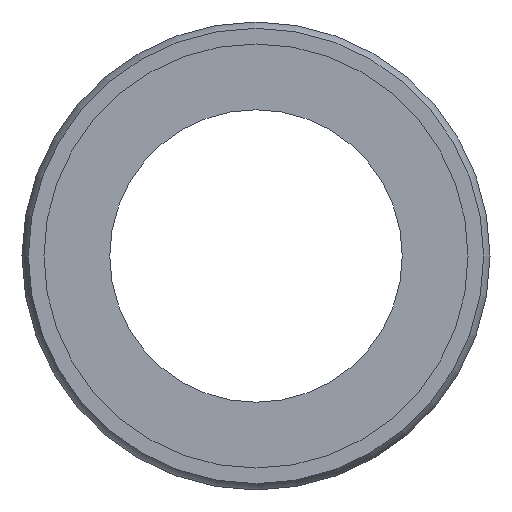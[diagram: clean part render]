
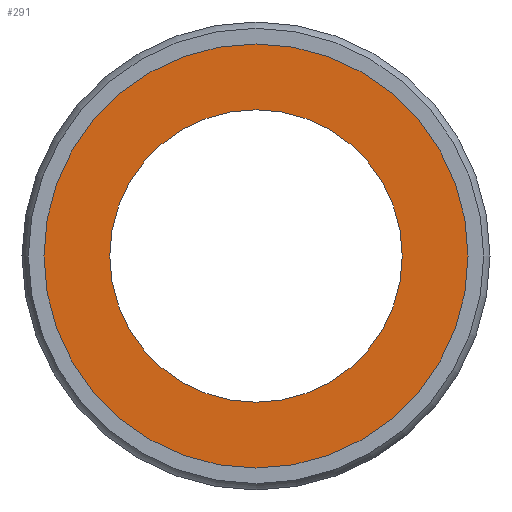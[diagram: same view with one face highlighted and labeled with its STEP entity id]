
A CAD part, left-side view. The second image highlights one B-rep face of the part: STEP entity #291.
In plain terms, the highlighted planar face has unit normal (-1, 0, 0).
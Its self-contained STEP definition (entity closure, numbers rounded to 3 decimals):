
#257=CARTESIAN_POINT('',(0.1,0.0,14.5));
#258=VERTEX_POINT('',#257);
#259=CARTESIAN_POINT('',(0.1,0.0,0.));
#260=DIRECTION('',(-1.0,0.0,0.0));
#261=DIRECTION('',(0.0,0.0,1.0));
#262=AXIS2_PLACEMENT_3D('',#259,#260,#261);
#263=CIRCLE('',#262,14.5);
#264=EDGE_CURVE('',#258,#258,#263,.T.);
#272=CARTESIAN_POINT('',(0.1,0.0,12.25));
#273=DIRECTION('',(-1.0,0.0,0.0));
#274=DIRECTION('',(0.0,0.0,1.0));
#275=AXIS2_PLACEMENT_3D('',#272,#273,#274);
#276=PLANE('',#275);
#277=ORIENTED_EDGE('',*,*,#264,.T.);
#278=EDGE_LOOP('',(#277));
#279=FACE_OUTER_BOUND('',#278,.T.);
#280=CARTESIAN_POINT('',(0.1,0.0,10.));
#281=VERTEX_POINT('',#280);
#282=CARTESIAN_POINT('',(0.1,0.0,0.));
#283=DIRECTION('',(-1.0,0.0,0.0));
#284=DIRECTION('',(0.0,0.0,1.0));
#285=AXIS2_PLACEMENT_3D('',#282,#283,#284);
#286=CIRCLE('',#285,10.);
#287=EDGE_CURVE('',#281,#281,#286,.T.);
#288=ORIENTED_EDGE('',*,*,#287,.F.);
#289=EDGE_LOOP('',(#288));
#290=FACE_BOUND('',#289,.T.);
#291=ADVANCED_FACE('',(#279,#290),#276,.T.);
